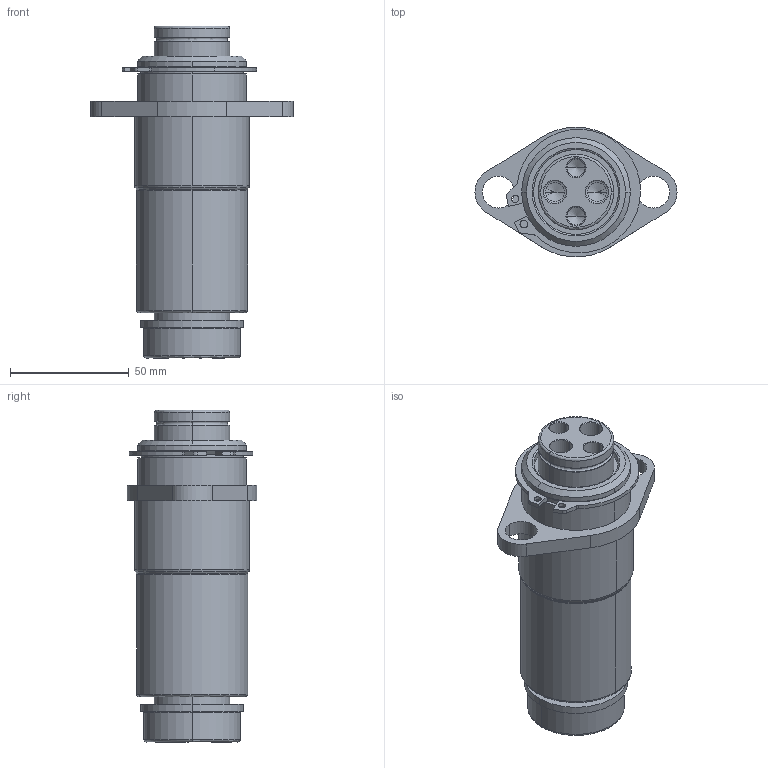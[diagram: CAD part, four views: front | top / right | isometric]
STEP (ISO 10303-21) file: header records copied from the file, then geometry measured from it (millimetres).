
FILE_DESCRIPTION (( 'STEP AP214' ), '1' );
FILE_NAME ('GK120-N4-1-TB-E-XXX.STEP', '2020-09-21T16:01:39', ( '' ), ( '' ), 'SwSTEP 2.0', 'SolidWorks 2017', '' );
FILE_SCHEMA (( 'AUTOMOTIVE_DESIGN' ));
Length unit declared in the file: inch
Products named in the file (7): GK120-E-XXX-GuidePin; GK1.25-N4-1-TB-Base; GK120-N4-1-TB-E-XXX; GK120-DampeningWasher; RetainingRing
Assembly tree (6 placements, depth 3):
  GK120-N4-1-TB-E-XXX
    GK1.25-N4-1-TB-Base
      GK1.25-N4-1-TB-Base
      RetainingRing
    GK120-E-XXX-GuidePin
      GK120-E-XXX-GuidePin
      GK120-DampeningWasher
Bounding box: 85.09 x 54.52 x 139.7 mm (x, y, z)
Volume: 220873.1 mm3; surface area: 54876 mm2
Topology: 4 solids, 4 shells, 137 faces, 321 edges, 194 vertices
Faces by surface type: cylinder 63, cone 30, plane 24, bspline 20
Entity records: 4781 total; most frequent: CARTESIAN_POINT 1189, DIRECTION 739, ORIENTED_EDGE 626, EDGE_CURVE 313, AXIS2_PLACEMENT_3D 308, VERTEX_POINT 194, CIRCLE 180, EDGE_LOOP 159
